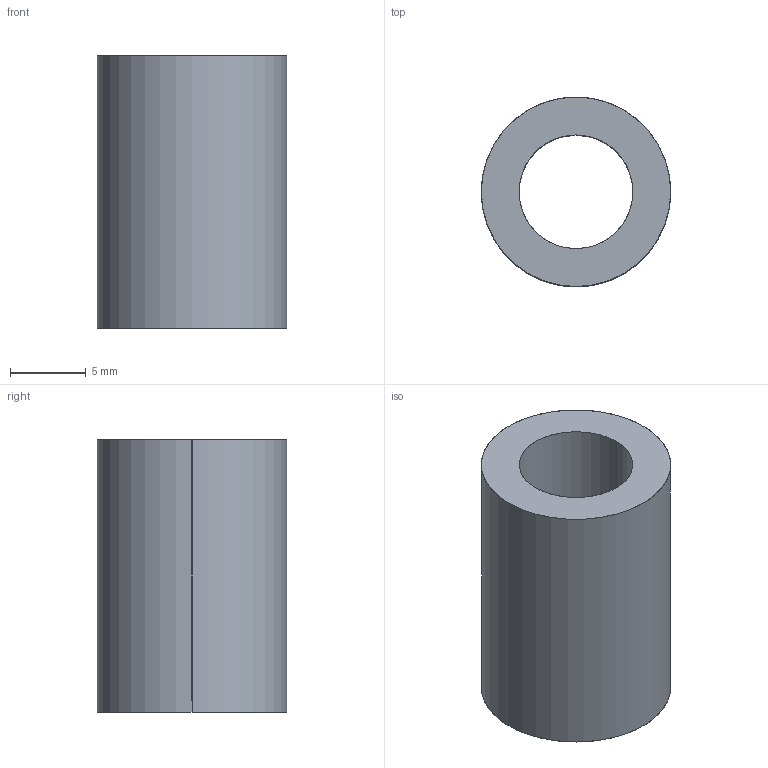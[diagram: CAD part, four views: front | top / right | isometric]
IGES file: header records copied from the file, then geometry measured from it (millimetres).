
Start section: SolidWorks IGES file using analytic representation for surfaces
Global section: file name: R:\DESIGN STORE\PRODUCTS\INDOOR AIRING\C0249 Bed Bath & Beyond X-Wing\stage 1\solidworks\C2\C0249 Iges 091013\Spacer_A.IGS; native system: SolidWorks 2013; preprocessor: SolidWorks 2013; author: howardm; date: 131009.161834; units: millimetre
Bounding box: 12.5 x 12.5 x 18 mm (x, y, z)
Surface area: 1288.1 mm2 (no closed solid volume)
Topology: 0 solids, 0 shells, 6 faces, 144 edges, 144 vertices
Faces by surface type: revolution 4, bspline 2
